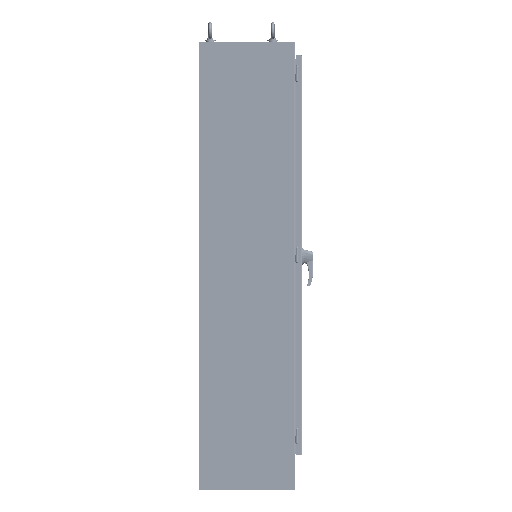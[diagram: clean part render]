
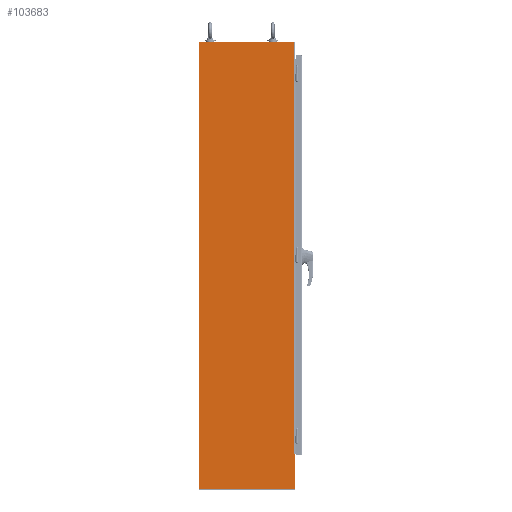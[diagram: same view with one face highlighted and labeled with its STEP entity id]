
A CAD part, left-side view. The second image highlights one B-rep face of the part: STEP entity #103683.
In plain terms, the highlighted planar face has unit normal (-1, 0, 0) as drawn and (0, -1, 0) by its records, which use the part's own axes.
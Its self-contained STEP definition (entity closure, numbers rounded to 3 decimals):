
#10562=CIRCLE('',#110603,0.381);
#12899=ORIENTED_EDGE('',*,*,#43634,.F.);
#12900=ORIENTED_EDGE('',*,*,#43635,.T.);
#12901=ORIENTED_EDGE('',*,*,#43574,.T.);
#12902=ORIENTED_EDGE('',*,*,#43636,.T.);
#12903=ORIENTED_EDGE('',*,*,#43637,.T.);
#12904=ORIENTED_EDGE('',*,*,#43638,.T.);
#12905=ORIENTED_EDGE('',*,*,#43639,.F.);
#43574=EDGE_CURVE('',#59040,#59039,#69595,.T.);
#43634=EDGE_CURVE('',#59079,#59091,#10562,.T.);
#43635=EDGE_CURVE('',#59079,#59040,#69644,.T.);
#43636=EDGE_CURVE('',#59039,#59092,#69645,.T.);
#43637=EDGE_CURVE('',#59092,#59093,#69646,.T.);
#43638=EDGE_CURVE('',#59093,#59094,#69647,.T.);
#43639=EDGE_CURVE('',#59091,#59094,#69648,.T.);
#59039=VERTEX_POINT('',#140421);
#59040=VERTEX_POINT('',#140423);
#59079=VERTEX_POINT('',#140507);
#59091=VERTEX_POINT('',#140540);
#59092=VERTEX_POINT('',#140543);
#59093=VERTEX_POINT('',#140545);
#59094=VERTEX_POINT('',#140547);
#69595=LINE('',#140422,#76810);
#69644=LINE('',#140541,#76859);
#69645=LINE('',#140542,#76860);
#69646=LINE('',#140544,#76861);
#69647=LINE('',#140546,#76862);
#69648=LINE('',#140548,#76863);
#76810=VECTOR('',#118601,1000.);
#76859=VECTOR('',#118686,1000.);
#76860=VECTOR('',#118687,1000.);
#76861=VECTOR('',#118688,1000.);
#76862=VECTOR('',#118689,1000.);
#76863=VECTOR('',#118690,1000.);
#83880=EDGE_LOOP('',(#12899,#12900,#12901,#12902,#12903,#12904,#12905));
#91400=FACE_BOUND('',#83880,.T.);
#98808=PLANE('',#110602);
#103683=ADVANCED_FACE('',(#91400),#98808,.T.);
#110602=AXIS2_PLACEMENT_3D('',#140538,#118682,#118683);
#110603=AXIS2_PLACEMENT_3D('',#140539,#118684,#118685);
#118601=DIRECTION('',(-1.,0.,0.));
#118682=DIRECTION('',(0.,-1.,0.));
#118683=DIRECTION('',(0.,0.,-1.));
#118684=DIRECTION('',(0.,-1.,0.));
#118685=DIRECTION('',(0.,0.,1.));
#118686=DIRECTION('',(0.,0.,1.));
#118687=DIRECTION('',(0.,0.,-1.));
#118688=DIRECTION('',(1.,0.,0.));
#118689=DIRECTION('',(0.,0.,1.));
#118690=DIRECTION('',(1.,0.,0.));
#140421=CARTESIAN_POINT('',(0.,0.,2130.425));
#140422=CARTESIAN_POINT('',(454.025,0.,2130.425));
#140423=CARTESIAN_POINT('',(452.501,0.,2130.425));
#140507=CARTESIAN_POINT('',(452.501,0.,170.231));
#140538=CARTESIAN_POINT('',(0.,0.,0.));
#140539=CARTESIAN_POINT('',(452.501,0.,169.85));
#140540=CARTESIAN_POINT('',(452.501,0.,169.469));
#140541=CARTESIAN_POINT('',(452.501,0.,170.231));
#140542=CARTESIAN_POINT('',(0.,0.,2130.425));
#140543=CARTESIAN_POINT('',(0.,0.,0.));
#140544=CARTESIAN_POINT('',(0.,0.,0.));
#140545=CARTESIAN_POINT('',(454.025,0.,0.));
#140546=CARTESIAN_POINT('',(454.025,0.,0.));
#140547=CARTESIAN_POINT('',(454.025,0.,169.469));
#140548=CARTESIAN_POINT('',(452.501,0.,169.469));
